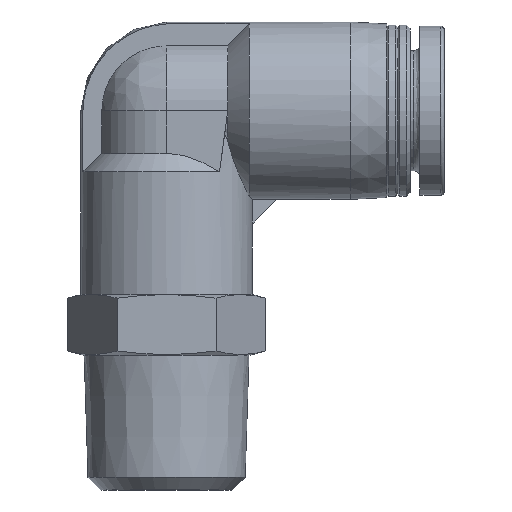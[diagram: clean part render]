
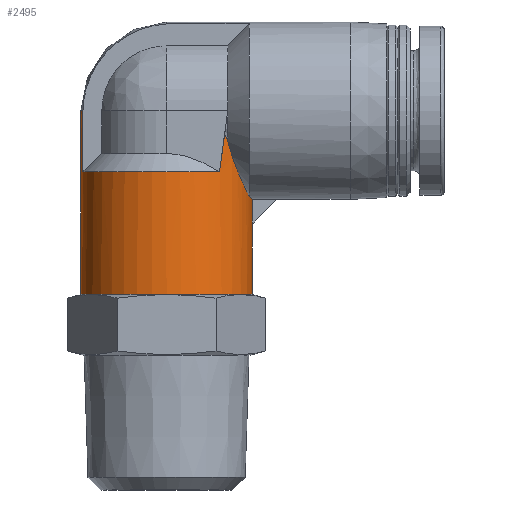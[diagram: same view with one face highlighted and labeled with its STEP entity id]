
A CAD part, front view. The second image highlights one B-rep face of the part: STEP entity #2495.
In plain terms, the highlighted cylindrical face has radius 7 mm (diameter 14 mm), a partial arc.
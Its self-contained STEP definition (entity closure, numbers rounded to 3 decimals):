
#44 = CARTESIAN_POINT ( 'NONE',  ( 6.982, -0.5, 23.767 ) ) ;
#111 = VERTEX_POINT ( 'NONE', #1179 ) ;
#114 = VECTOR ( 'NONE', #1239, 1000. ) ;
#138 = ORIENTED_EDGE ( 'NONE', *, *, #160, .T. ) ;
#155 = ORIENTED_EDGE ( 'NONE', *, *, #2222, .T. ) ;
#160 = EDGE_CURVE ( 'NONE', #559, #111, #1384, .T. ) ;
#188 = LINE ( 'NONE', #2683, #468 ) ;
#222 = CARTESIAN_POINT ( 'NONE',  ( 4.609, -5.272, 28.08 ) ) ;
#232 = CARTESIAN_POINT ( 'NONE',  ( 4.741, -5.15, 29.069 ) ) ;
#246 = DIRECTION ( 'NONE',  ( 0., 0., 1. ) ) ;
#269 = B_SPLINE_CURVE_WITH_KNOTS ( 'NONE', 3,
 ( #714, #1357, #730, #2417, #350, #584, #971, #772, #572, #2635 ),
 .UNSPECIFIED., .F., .F.,
 ( 4, 2, 2, 2, 4 ),
 ( 0., 0.001, 0.003, 0.004, 0.006 ),
 .UNSPECIFIED. ) ;
#296 = CARTESIAN_POINT ( 'NONE',  ( -7., 0., 16. ) ) ;
#297 = EDGE_CURVE ( 'NONE', #1378, #1706, #1947, .T. ) ;
#309 = ORIENTED_EDGE ( 'NONE', *, *, #1385, .F. ) ;
#316 = CIRCLE ( 'NONE', #798, 7. ) ;
#318 = VERTEX_POINT ( 'NONE', #2301 ) ;
#342 = ORIENTED_EDGE ( 'NONE', *, *, #2414, .T. ) ;
#350 = CARTESIAN_POINT ( 'NONE',  ( 5.694, -4.083, 26.322 ) ) ;
#364 =( BOUNDED_CURVE ( )  B_SPLINE_CURVE ( 3, ( #1485, #222, #1046, #1484 ),
 .UNSPECIFIED., .F., .F. ) 
 B_SPLINE_CURVE_WITH_KNOTS ( ( 4, 4 ),
 ( 0.827, 0.904 ),
 .UNSPECIFIED. ) 
 CURVE ( )  GEOMETRIC_REPRESENTATION_ITEM ( )  RATIONAL_B_SPLINE_CURVE ( ( 1., 1., 1., 1. ) ) 
 REPRESENTATION_ITEM ( '' )  );
#379 = CARTESIAN_POINT ( 'NONE',  ( -6.837, -1.5, 31. ) ) ;
#383 = EDGE_CURVE ( 'NONE', #469, #111, #1020, .T. ) ;
#391 = CARTESIAN_POINT ( 'NONE',  ( 6.994, -0.334, 21.744 ) ) ;
#443 = FACE_OUTER_BOUND ( 'NONE', #1595, .T. ) ;
#448 = CARTESIAN_POINT ( 'NONE',  ( 0., 0., 26. ) ) ;
#468 = VECTOR ( 'NONE', #1010, 1000. ) ;
#469 = VERTEX_POINT ( 'NONE', #668 ) ;
#473 = VERTEX_POINT ( 'NONE', #2330 ) ;
#557 = VERTEX_POINT ( 'NONE', #296 ) ;
#559 = VERTEX_POINT ( 'NONE', #1114 ) ;
#571 = EDGE_CURVE ( 'NONE', #1378, #473, #269, .T. ) ;
#572 = CARTESIAN_POINT ( 'NONE',  ( 6.634, -2.275, 24.222 ) ) ;
#573 = CARTESIAN_POINT ( 'NONE',  ( -6.837, -1.5, 31. ) ) ;
#584 = CARTESIAN_POINT ( 'NONE',  ( 6.019, -3.586, 25.539 ) ) ;
#593 = DIRECTION ( 'NONE',  ( 0., 0., 1. ) ) ;
#637 = CARTESIAN_POINT ( 'NONE',  ( 6.982, -0.5, 23.767 ) ) ;
#668 = CARTESIAN_POINT ( 'NONE',  ( 6.982, -0.5, 21.732 ) ) ;
#714 = CARTESIAN_POINT ( 'NONE',  ( 5., -4.899, 28.5 ) ) ;
#716 = ORIENTED_EDGE ( 'NONE', *, *, #760, .F. ) ;
#730 = CARTESIAN_POINT ( 'NONE',  ( 5.244, -4.642, 27.589 ) ) ;
#760 = EDGE_CURVE ( 'NONE', #318, #469, #1874, .T. ) ;
#763 = CARTESIAN_POINT ( 'NONE',  ( -6.837, -1.5, 26. ) ) ;
#772 = CARTESIAN_POINT ( 'NONE',  ( 6.489, -2.649, 24.517 ) ) ;
#777 = ORIENTED_EDGE ( 'NONE', *, *, #1915, .T. ) ;
#798 = AXIS2_PLACEMENT_3D ( 'NONE', #979, #2192, #2374 ) ;
#803 = DIRECTION ( 'NONE',  ( 0., 0., 1. ) ) ;
#831 = CARTESIAN_POINT ( 'NONE',  ( 6.982, -0.5, 21.732 ) ) ;
#840 = CARTESIAN_POINT ( 'NONE',  ( 6.949, -0.966, 23.799 ) ) ;
#844 = VECTOR ( 'NONE', #803, 1000. ) ;
#851 = CARTESIAN_POINT ( 'NONE',  ( 5., -4.899, 28.5 ) ) ;
#970 = ORIENTED_EDGE ( 'NONE', *, *, #2594, .F. ) ;
#971 = CARTESIAN_POINT ( 'NONE',  ( 6.182, -3.303, 25.175 ) ) ;
#979 = CARTESIAN_POINT ( 'NONE',  ( 0., 0., 16. ) ) ;
#985 = ORIENTED_EDGE ( 'NONE', *, *, #2294, .F. ) ;
#992 = CARTESIAN_POINT ( 'NONE',  ( -6.945, -1.008, 31. ) ) ;
#1010 = DIRECTION ( 'NONE',  ( 0., 0., -1. ) ) ;
#1020 =( BOUNDED_CURVE ( )  B_SPLINE_CURVE ( 3, ( #831, #391, #1066, #1257 ),
 .UNSPECIFIED., .F., .T. ) 
 B_SPLINE_CURVE_WITH_KNOTS ( ( 4, 4 ),
 ( 6.212, 6.283 ),
 .UNSPECIFIED. ) 
 CURVE ( )  GEOMETRIC_REPRESENTATION_ITEM ( )  RATIONAL_B_SPLINE_CURVE ( ( 1., 1., 1., 1. ) ) 
 REPRESENTATION_ITEM ( '' )  );
#1046 = CARTESIAN_POINT ( 'NONE',  ( 4.472, -5.389, 27.056 ) ) ;
#1064 = DIRECTION ( 'NONE',  ( 1., 0., 0. ) ) ;
#1066 = CARTESIAN_POINT ( 'NONE',  ( 7., -0.167, 21.75 ) ) ;
#1114 = CARTESIAN_POINT ( 'NONE',  ( 7., 0., 16. ) ) ;
#1132 = ORIENTED_EDGE ( 'NONE', *, *, #571, .F. ) ;
#1167 = B_SPLINE_CURVE_WITH_KNOTS ( 'NONE', 3,
 ( #44, #840, #1519, #2352 ),
 .UNSPECIFIED., .F., .F.,
 ( 4, 4 ),
 ( 0., 0.001 ),
 .UNSPECIFIED. ) ;
#1179 = CARTESIAN_POINT ( 'NONE',  ( 7., 0., 21.75 ) ) ;
#1212 = AXIS2_PLACEMENT_3D ( 'NONE', #448, #2304, #1470 ) ;
#1239 = DIRECTION ( 'NONE',  ( 0., 0., -1. ) ) ;
#1257 = CARTESIAN_POINT ( 'NONE',  ( 7., 0., 21.75 ) ) ;
#1269 = CYLINDRICAL_SURFACE ( 'NONE', #2096, 7. ) ;
#1272 = CARTESIAN_POINT ( 'NONE',  ( 4.821, -5.076, 28.872 ) ) ;
#1357 = CARTESIAN_POINT ( 'NONE',  ( 5.111, -4.786, 28.034 ) ) ;
#1378 = VERTEX_POINT ( 'NONE', #851 ) ;
#1384 = LINE ( 'NONE', #2016, #2522 ) ;
#1385 = EDGE_CURVE ( 'NONE', #1483, #2527, #188, .T. ) ;
#1470 = DIRECTION ( 'NONE',  ( 1., 0., 0. ) ) ;
#1480 = CARTESIAN_POINT ( 'NONE',  ( 5., -4.899, 28.5 ) ) ;
#1483 = VERTEX_POINT ( 'NONE', #573 ) ;
#1484 = CARTESIAN_POINT ( 'NONE',  ( 4.33, -5.5, 26. ) ) ;
#1485 = CARTESIAN_POINT ( 'NONE',  ( 4.741, -5.15, 29.069 ) ) ;
#1518 = ORIENTED_EDGE ( 'NONE', *, *, #297, .T. ) ;
#1519 = CARTESIAN_POINT ( 'NONE',  ( 6.87, -1.417, 23.875 ) ) ;
#1578 = VERTEX_POINT ( 'NONE', #2007 ) ;
#1595 = EDGE_LOOP ( 'NONE', ( #970, #155, #138, #2132, #716, #342, #1132, #1518, #777, #2464, #309, #985 ) ) ;
#1695 = CIRCLE ( 'NONE', #1212, 7. ) ;
#1706 = VERTEX_POINT ( 'NONE', #2411 ) ;
#1846 = CARTESIAN_POINT ( 'NONE',  ( -7., 0., 16. ) ) ;
#1874 = LINE ( 'NONE', #637, #114 ) ;
#1914 = EDGE_CURVE ( 'NONE', #1578, #2527, #1695, .T. ) ;
#1915 = EDGE_CURVE ( 'NONE', #1706, #1578, #364, .T. ) ;
#1947 = B_SPLINE_CURVE_WITH_KNOTS ( 'NONE', 3,
 ( #1480, #2463, #1272, #232 ),
 .UNSPECIFIED., .F., .F.,
 ( 4, 4 ),
 ( 0., 0.001 ),
 .UNSPECIFIED. ) ;
#1988 = VERTEX_POINT ( 'NONE', #2120 ) ;
#2007 = CARTESIAN_POINT ( 'NONE',  ( 4.33, -5.5, 26. ) ) ;
#2014 = CARTESIAN_POINT ( 'NONE',  ( -7., 0., 31. ) ) ;
#2016 = CARTESIAN_POINT ( 'NONE',  ( 7., 0., 16. ) ) ;
#2096 = AXIS2_PLACEMENT_3D ( 'NONE', #2101, #246, #1064 ) ;
#2101 = CARTESIAN_POINT ( 'NONE',  ( 0., 0., 16. ) ) ;
#2120 = CARTESIAN_POINT ( 'NONE',  ( -7., 0., 31. ) ) ;
#2132 = ORIENTED_EDGE ( 'NONE', *, *, #383, .F. ) ;
#2192 = DIRECTION ( 'NONE',  ( 0., 0., 1. ) ) ;
#2222 = EDGE_CURVE ( 'NONE', #557, #559, #316, .T. ) ;
#2245 = CARTESIAN_POINT ( 'NONE',  ( -7., -0.504, 31. ) ) ;
#2294 = EDGE_CURVE ( 'NONE', #1988, #1483, #2381, .T. ) ;
#2301 = CARTESIAN_POINT ( 'NONE',  ( 6.982, -0.5, 23.767 ) ) ;
#2304 = DIRECTION ( 'NONE',  ( 0., 0., -1. ) ) ;
#2330 = CARTESIAN_POINT ( 'NONE',  ( 6.75, -1.854, 23.991 ) ) ;
#2352 = CARTESIAN_POINT ( 'NONE',  ( 6.75, -1.854, 23.991 ) ) ;
#2374 = DIRECTION ( 'NONE',  ( 1., 0., 0. ) ) ;
#2381 = B_SPLINE_CURVE_WITH_KNOTS ( 'NONE', 3,
 ( #2014, #2245, #992, #379 ),
 .UNSPECIFIED., .F., .F.,
 ( 4, 4 ),
 ( 0., 1. ),
 .UNSPECIFIED. ) ;
#2411 = CARTESIAN_POINT ( 'NONE',  ( 4.741, -5.15, 29.069 ) ) ;
#2414 = EDGE_CURVE ( 'NONE', #318, #473, #1167, .T. ) ;
#2417 = CARTESIAN_POINT ( 'NONE',  ( 5.535, -4.291, 26.733 ) ) ;
#2447 = LINE ( 'NONE', #1846, #844 ) ;
#2463 = CARTESIAN_POINT ( 'NONE',  ( 4.909, -4.992, 28.683 ) ) ;
#2464 = ORIENTED_EDGE ( 'NONE', *, *, #1914, .T. ) ;
#2495 = ADVANCED_FACE ( '38', ( #443 ), #1269, .T. ) ;
#2522 = VECTOR ( 'NONE', #593, 1000. ) ;
#2527 = VERTEX_POINT ( 'NONE', #763 ) ;
#2594 = EDGE_CURVE ( 'NONE', #557, #1988, #2447, .T. ) ;
#2635 = CARTESIAN_POINT ( 'NONE',  ( 6.75, -1.854, 23.991 ) ) ;
#2683 = CARTESIAN_POINT ( 'NONE',  ( -6.837, -1.5, 38.093 ) ) ;
